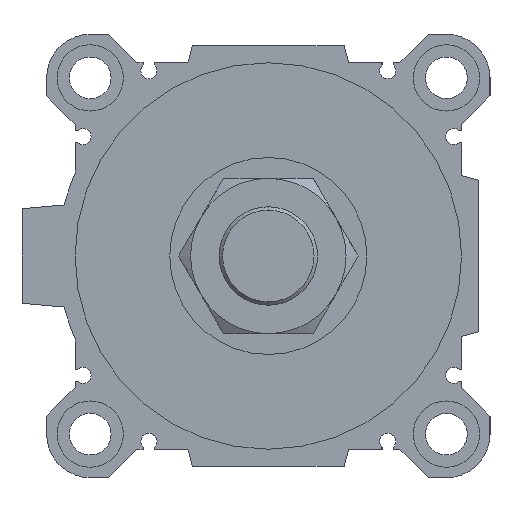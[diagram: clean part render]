
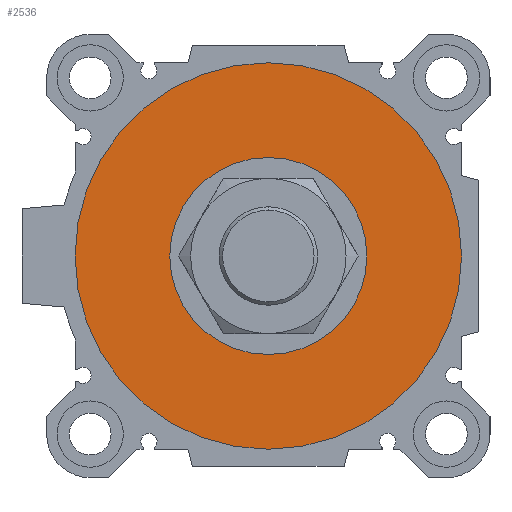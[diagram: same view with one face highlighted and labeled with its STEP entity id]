
A CAD part, left-side view. The second image highlights one B-rep face of the part: STEP entity #2536.
In plain terms, the highlighted planar face has unit normal (-1, 0, 0).
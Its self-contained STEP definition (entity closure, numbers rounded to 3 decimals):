
#11 = AXIS2_PLACEMENT_3D ( 'NONE', #6989, #248, #985 ) ;
#193 = CIRCLE ( 'NONE', #5024, 51. ) ;
#248 = DIRECTION ( 'NONE',  ( 1., 0., 0. ) ) ;
#373 = CARTESIAN_POINT ( 'NONE',  ( 6.5, 0., 0. ) ) ;
#491 = DIRECTION ( 'NONE',  ( 0., 0., -1. ) ) ;
#970 = ORIENTED_EDGE ( 'NONE', *, *, #4384, .T. ) ;
#985 = DIRECTION ( 'NONE',  ( 0., 1., 0. ) ) ;
#1015 = DIRECTION ( 'NONE',  ( 1., 0., 0. ) ) ;
#1061 = CARTESIAN_POINT ( 'NONE',  ( 6.5, 0., 0. ) ) ;
#1194 = ORIENTED_EDGE ( 'NONE', *, *, #4106, .T. ) ;
#1201 = CARTESIAN_POINT ( 'NONE',  ( 6.5, 0., 0. ) ) ;
#1700 = AXIS2_PLACEMENT_3D ( 'NONE', #6529, #1015, #5378 ) ;
#1984 = VERTEX_POINT ( 'NONE', #7252 ) ;
#2166 = VERTEX_POINT ( 'NONE', #7120 ) ;
#2536 = ADVANCED_FACE ( 'NONE', ( #3977, #6295 ), #3305, .F. ) ;
#3112 = AXIS2_PLACEMENT_3D ( 'NONE', #373, #4470, #6907 ) ;
#3294 = EDGE_LOOP ( 'NONE', ( #7418, #7265 ) ) ;
#3305 = PLANE ( 'NONE',  #11 ) ;
#3337 = EDGE_LOOP ( 'NONE', ( #970, #1194 ) ) ;
#3405 = VERTEX_POINT ( 'NONE', #4272 ) ;
#3434 = VERTEX_POINT ( 'NONE', #4982 ) ;
#3605 = DIRECTION ( 'NONE',  ( 1., 0., 0. ) ) ;
#3711 = AXIS2_PLACEMENT_3D ( 'NONE', #1201, #3605, #6738 ) ;
#3977 = FACE_OUTER_BOUND ( 'NONE', #3294, .T. ) ;
#4106 = EDGE_CURVE ( 'NONE', #3434, #3405, #7167, .T. ) ;
#4272 = CARTESIAN_POINT ( 'NONE',  ( 6.5, 0., 26. ) ) ;
#4384 = EDGE_CURVE ( 'NONE', #3405, #3434, #6132, .T. ) ;
#4470 = DIRECTION ( 'NONE',  ( 1., 0., 0. ) ) ;
#4982 = CARTESIAN_POINT ( 'NONE',  ( 6.5, 0., -26. ) ) ;
#5024 = AXIS2_PLACEMENT_3D ( 'NONE', #1061, #5389, #491 ) ;
#5378 = DIRECTION ( 'NONE',  ( 0., 0., -1. ) ) ;
#5389 = DIRECTION ( 'NONE',  ( 1., 0., 0. ) ) ;
#6132 = CIRCLE ( 'NONE', #1700, 26. ) ;
#6295 = FACE_BOUND ( 'NONE', #3337, .T. ) ;
#6357 = EDGE_CURVE ( 'NONE', #1984, #2166, #193, .T. ) ;
#6529 = CARTESIAN_POINT ( 'NONE',  ( 6.5, 0., 0. ) ) ;
#6560 = CIRCLE ( 'NONE', #3112, 51. ) ;
#6738 = DIRECTION ( 'NONE',  ( 0., 0., -1. ) ) ;
#6907 = DIRECTION ( 'NONE',  ( 0., 0., -1. ) ) ;
#6989 = CARTESIAN_POINT ( 'NONE',  ( 6.5, 0., 0. ) ) ;
#7120 = CARTESIAN_POINT ( 'NONE',  ( 6.5, 0., 51. ) ) ;
#7167 = CIRCLE ( 'NONE', #3711, 26. ) ;
#7231 = EDGE_CURVE ( 'NONE', #2166, #1984, #6560, .T. ) ;
#7252 = CARTESIAN_POINT ( 'NONE',  ( 6.5, 0., -51. ) ) ;
#7265 = ORIENTED_EDGE ( 'NONE', *, *, #6357, .F. ) ;
#7418 = ORIENTED_EDGE ( 'NONE', *, *, #7231, .F. ) ;
